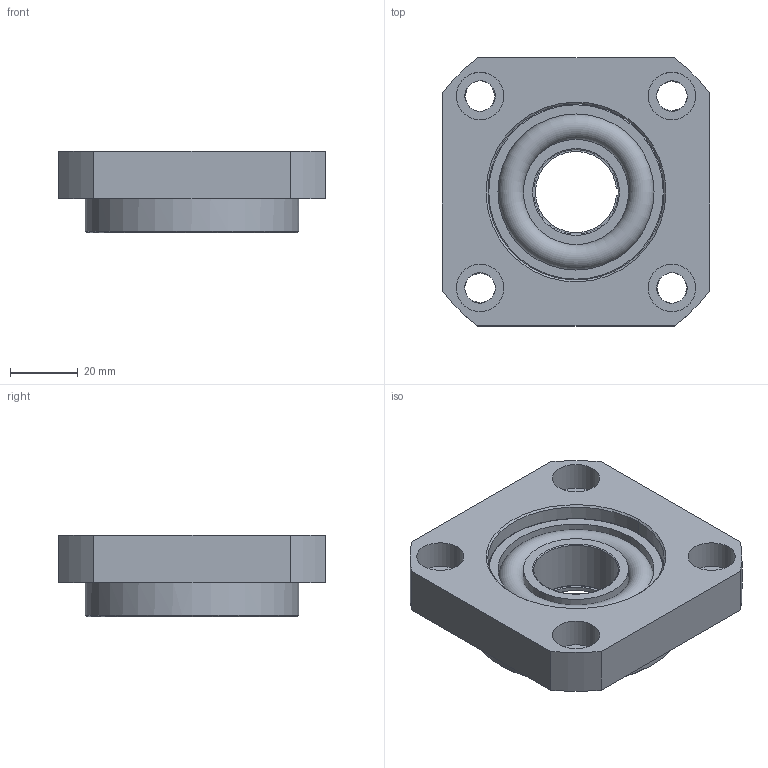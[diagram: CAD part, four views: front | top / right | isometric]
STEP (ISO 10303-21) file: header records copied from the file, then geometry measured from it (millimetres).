
FILE_DESCRIPTION (( 'STEP AP214' ), '1' );
FILE_NAME ('FF25.STEP', '2018-09-11T23:49:37', ( 'Marcio' ), ( '' ), 'SwSTEP 2.0', 'SolidWorks 2017', '' );
FILE_SCHEMA (( 'AUTOMOTIVE_DESIGN' ));
Length unit declared in the file: millimetre
Products named in the file (4): DIN 471_DSH-25; ROLAMENTO 6205-ZZ; CORPO FF25; FF25
Assembly tree (3 placements, depth 2):
  FF25
    CORPO FF25
    ROLAMENTO 6205-ZZ
    DIN 471_DSH-25
Bounding box: 79 x 79 x 24 mm (x, y, z)
Volume: 81014.3 mm3; surface area: 29749.3 mm2
Topology: 3 solids, 3 shells, 64 faces, 142 edges, 91 vertices
Faces by surface type: bspline 20, plane 19, cylinder 19, torus 6
Full cylindrical faces by diameter (mm): 2 x2, 14 x4, 25 x1, 31 x2, 46 x2, 52 x1, 63 x1
Entity records: 3828 total; most frequent: CARTESIAN_POINT 2012, ORIENTED_EDGE 242, DIRECTION 226, EDGE_CURVE 121, EDGE_LOOP 106, AXIS2_PLACEMENT_3D 91, VERTEX_POINT 89, FACE_OUTER_BOUND 83
